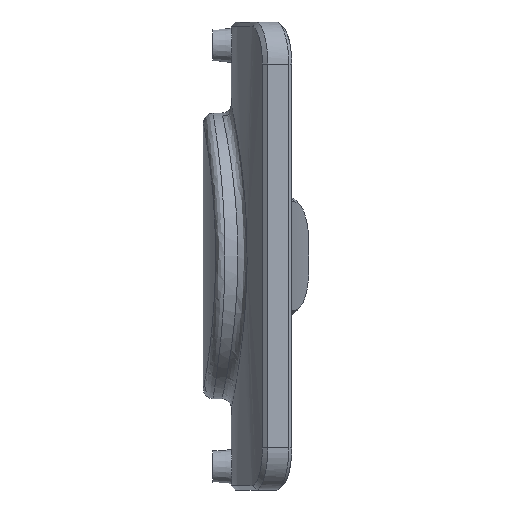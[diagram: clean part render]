
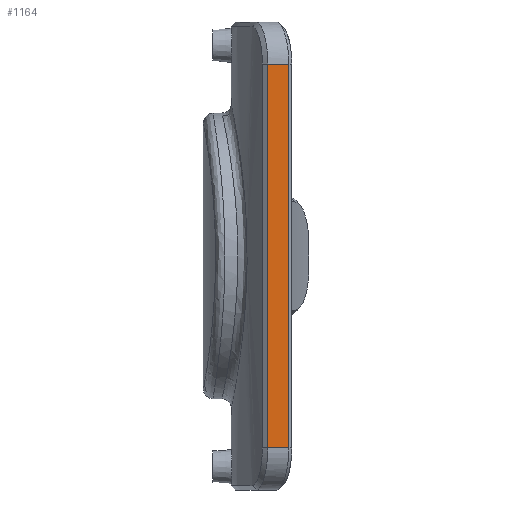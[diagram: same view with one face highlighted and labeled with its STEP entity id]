
A CAD part, left-side view. The second image highlights one B-rep face of the part: STEP entity #1164.
In plain terms, the highlighted planar face has unit normal (-1, 0, 0).
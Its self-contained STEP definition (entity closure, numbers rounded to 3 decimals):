
#152=FACE_OUTER_BOUND('',#224,.T.);
#224=EDGE_LOOP('',(#970,#971,#972,#973));
#343=LINE('',#1994,#417);
#365=LINE('',#2392,#439);
#381=LINE('',#2788,#455);
#382=LINE('',#2789,#456);
#417=VECTOR('',#1332,10.);
#439=VECTOR('',#1392,10.);
#455=VECTOR('',#1426,10.);
#456=VECTOR('',#1427,10.);
#501=VERTEX_POINT('',#1966);
#503=VERTEX_POINT('',#1990);
#530=VERTEX_POINT('',#2367);
#532=VERTEX_POINT('',#2391);
#626=EDGE_CURVE('',#501,#503,#343,.T.);
#674=EDGE_CURVE('',#530,#532,#365,.T.);
#710=EDGE_CURVE('',#532,#501,#381,.T.);
#711=EDGE_CURVE('',#503,#530,#382,.T.);
#970=ORIENTED_EDGE('',*,*,#626,.F.);
#971=ORIENTED_EDGE('',*,*,#710,.F.);
#972=ORIENTED_EDGE('',*,*,#674,.F.);
#973=ORIENTED_EDGE('',*,*,#711,.F.);
#1106=PLANE('',#1248);
#1164=ADVANCED_FACE('',(#152),#1106,.T.);
#1248=AXIS2_PLACEMENT_3D('',#2787,#1424,#1425);
#1332=DIRECTION('',(0.,0.,-1.));
#1392=DIRECTION('',(0.,0.,1.));
#1424=DIRECTION('center_axis',(-1.,0.,0.));
#1425=DIRECTION('ref_axis',(0.,-1.,0.));
#1426=DIRECTION('',(0.,-1.,0.));
#1427=DIRECTION('',(0.,1.,0.));
#1966=CARTESIAN_POINT('',(-137.25,431.259,123.));
#1990=CARTESIAN_POINT('',(-137.25,431.259,-123.));
#1994=CARTESIAN_POINT('',(-137.25,431.259,0.));
#2367=CARTESIAN_POINT('',(-137.25,444.722,-123.));
#2391=CARTESIAN_POINT('',(-137.25,444.722,123.));
#2392=CARTESIAN_POINT('',(-137.25,444.722,0.));
#2787=CARTESIAN_POINT('Origin',(-137.25,447.422,0.));
#2788=CARTESIAN_POINT('',(-137.25,449.117,123.));
#2789=CARTESIAN_POINT('',(-137.25,449.117,-123.));
